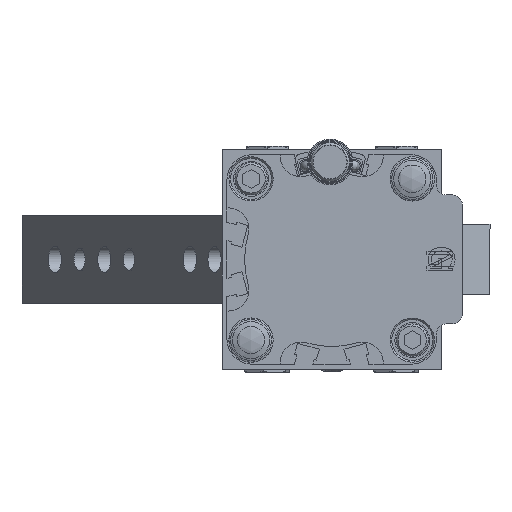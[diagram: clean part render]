
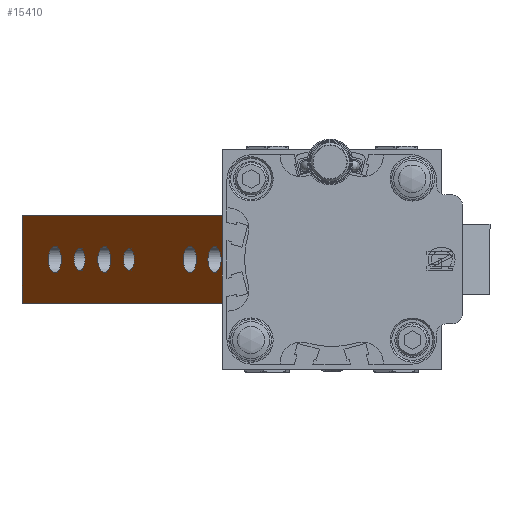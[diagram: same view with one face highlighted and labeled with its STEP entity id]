
A CAD part, left-side view. The second image highlights one B-rep face of the part: STEP entity #15410.
In plain terms, the highlighted planar face has unit normal (-0.51, 0.86, 0) as drawn and (0, 1, 0) by its records, which use the part's own axes.
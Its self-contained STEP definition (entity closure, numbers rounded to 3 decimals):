
#1286=LINE('',#25155,#2335);
#1299=LINE('',#25186,#2348);
#1304=LINE('',#25196,#2353);
#1326=LINE('',#25263,#2375);
#1328=LINE('',#25266,#2377);
#1331=LINE('',#25280,#2380);
#1339=LINE('',#25337,#2388);
#1340=LINE('',#25338,#2389);
#2335=VECTOR('',#19947,10.);
#2348=VECTOR('',#19972,10.);
#2353=VECTOR('',#19981,10.);
#2375=VECTOR('',#20041,10.);
#2377=VECTOR('',#20045,10.);
#2380=VECTOR('',#20058,10.);
#2388=VECTOR('',#20080,10.);
#2389=VECTOR('',#20081,10.);
#3123=PLANE('',#17115);
#3938=FACE_BOUND('',#5799,.T.);
#3939=FACE_BOUND('',#5800,.T.);
#3940=FACE_BOUND('',#5801,.T.);
#3941=FACE_BOUND('',#5802,.T.);
#3942=FACE_BOUND('',#5803,.T.);
#3943=FACE_BOUND('',#5804,.T.);
#4635=FACE_OUTER_BOUND('',#5798,.T.);
#5798=EDGE_LOOP('',(#12637,#12638,#12639,#12640,#12641,#12642,#12643,#12644));
#5799=EDGE_LOOP('',(#12645));
#5800=EDGE_LOOP('',(#12646));
#5801=EDGE_LOOP('',(#12647));
#5802=EDGE_LOOP('',(#12648));
#5803=EDGE_LOOP('',(#12649));
#5804=EDGE_LOOP('',(#12650));
#7082=CIRCLE('',#17116,4.);
#7083=CIRCLE('',#17117,4.);
#7084=CIRCLE('',#17118,3.324);
#7085=CIRCLE('',#17119,3.324);
#7086=CIRCLE('',#17120,4.025);
#7087=CIRCLE('',#17121,4.025);
#8164=VERTEX_POINT('',#25152);
#8165=VERTEX_POINT('',#25154);
#8176=VERTEX_POINT('',#25183);
#8177=VERTEX_POINT('',#25185);
#8179=VERTEX_POINT('',#25193);
#8180=VERTEX_POINT('',#25195);
#8205=VERTEX_POINT('',#25259);
#8218=VERTEX_POINT('',#25336);
#8219=VERTEX_POINT('',#25339);
#8220=VERTEX_POINT('',#25341);
#8221=VERTEX_POINT('',#25343);
#8222=VERTEX_POINT('',#25345);
#8223=VERTEX_POINT('',#25347);
#8224=VERTEX_POINT('',#25349);
#9842=EDGE_CURVE('',#8165,#8164,#1286,.T.);
#9857=EDGE_CURVE('',#8177,#8176,#1299,.T.);
#9862=EDGE_CURVE('',#8179,#8180,#1304,.T.);
#9896=EDGE_CURVE('',#8180,#8205,#1326,.T.);
#9898=EDGE_CURVE('',#8164,#8205,#1328,.T.);
#9905=EDGE_CURVE('',#8179,#8177,#1331,.T.);
#9917=EDGE_CURVE('',#8218,#8176,#1339,.T.);
#9918=EDGE_CURVE('',#8218,#8165,#1340,.T.);
#9919=EDGE_CURVE('',#8219,#8219,#7082,.T.);
#9920=EDGE_CURVE('',#8220,#8220,#7083,.T.);
#9921=EDGE_CURVE('',#8221,#8221,#7084,.T.);
#9922=EDGE_CURVE('',#8222,#8222,#7085,.T.);
#9923=EDGE_CURVE('',#8223,#8223,#7086,.T.);
#9924=EDGE_CURVE('',#8224,#8224,#7087,.T.);
#12637=ORIENTED_EDGE('',*,*,#9842,.T.);
#12638=ORIENTED_EDGE('',*,*,#9898,.T.);
#12639=ORIENTED_EDGE('',*,*,#9896,.F.);
#12640=ORIENTED_EDGE('',*,*,#9862,.F.);
#12641=ORIENTED_EDGE('',*,*,#9905,.T.);
#12642=ORIENTED_EDGE('',*,*,#9857,.T.);
#12643=ORIENTED_EDGE('',*,*,#9917,.F.);
#12644=ORIENTED_EDGE('',*,*,#9918,.T.);
#12645=ORIENTED_EDGE('',*,*,#9919,.T.);
#12646=ORIENTED_EDGE('',*,*,#9920,.T.);
#12647=ORIENTED_EDGE('',*,*,#9921,.T.);
#12648=ORIENTED_EDGE('',*,*,#9922,.T.);
#12649=ORIENTED_EDGE('',*,*,#9923,.T.);
#12650=ORIENTED_EDGE('',*,*,#9924,.T.);
#15410=ADVANCED_FACE('',(#4635,#3938,#3939,#3940,#3941,#3942,#3943),#3123,
 .T.);
#17115=AXIS2_PLACEMENT_3D('',#25335,#20078,#20079);
#17116=AXIS2_PLACEMENT_3D('',#25340,#20082,#20083);
#17117=AXIS2_PLACEMENT_3D('',#25342,#20084,#20085);
#17118=AXIS2_PLACEMENT_3D('',#25344,#20086,#20087);
#17119=AXIS2_PLACEMENT_3D('',#25346,#20088,#20089);
#17120=AXIS2_PLACEMENT_3D('',#25348,#20090,#20091);
#17121=AXIS2_PLACEMENT_3D('',#25350,#20092,#20093);
#19947=DIRECTION('',(0.,0.,1.));
#19972=DIRECTION('',(1.,0.,0.));
#19981=DIRECTION('',(-1.,0.,0.));
#20041=DIRECTION('',(0.,0.,-1.));
#20045=DIRECTION('',(-1.,0.,0.));
#20058=DIRECTION('',(0.,0.,1.));
#20078=DIRECTION('center_axis',(0.,1.,0.));
#20079=DIRECTION('ref_axis',(0.,0.,1.));
#20080=DIRECTION('',(0.,0.,1.));
#20081=DIRECTION('',(-1.,0.,0.));
#20082=DIRECTION('center_axis',(0.,-1.,0.));
#20083=DIRECTION('ref_axis',(1.,0.,0.));
#20084=DIRECTION('center_axis',(0.,-1.,0.));
#20085=DIRECTION('ref_axis',(1.,0.,0.));
#20086=DIRECTION('center_axis',(0.,-1.,0.));
#20087=DIRECTION('ref_axis',(1.,0.,0.));
#20088=DIRECTION('center_axis',(0.,-1.,0.));
#20089=DIRECTION('ref_axis',(1.,0.,0.));
#20090=DIRECTION('center_axis',(0.,-1.,0.));
#20091=DIRECTION('ref_axis',(1.,0.,0.));
#20092=DIRECTION('center_axis',(0.,-1.,0.));
#20093=DIRECTION('ref_axis',(1.,0.,0.));
#25152=CARTESIAN_POINT('',(26.5,75.,2.5));
#25154=CARTESIAN_POINT('',(26.5,75.,0.));
#25155=CARTESIAN_POINT('',(26.5,75.,0.625));
#25183=CARTESIAN_POINT('',(155.,75.,27.));
#25185=CARTESIAN_POINT('',(26.5,75.,27.));
#25186=CARTESIAN_POINT('',(155.,75.,27.));
#25193=CARTESIAN_POINT('',(26.5,75.,24.5));
#25195=CARTESIAN_POINT('',(-3.,75.,24.5));
#25196=CARTESIAN_POINT('',(0.,75.,24.5));
#25259=CARTESIAN_POINT('',(-3.,75.,2.5));
#25263=CARTESIAN_POINT('',(-3.,75.,24.5));
#25266=CARTESIAN_POINT('',(0.,75.,2.5));
#25280=CARTESIAN_POINT('',(26.5,75.,12.875));
#25335=CARTESIAN_POINT('Origin',(0.,75.,0.));
#25336=CARTESIAN_POINT('',(155.,75.,0.));
#25337=CARTESIAN_POINT('',(155.,75.,0.));
#25338=CARTESIAN_POINT('',(155.,75.,0.));
#25339=CARTESIAN_POINT('',(139.,75.,13.5));
#25340=CARTESIAN_POINT('Origin',(135.,75.,13.5));
#25341=CARTESIAN_POINT('',(109.,75.,13.5));
#25342=CARTESIAN_POINT('Origin',(105.,75.,13.5));
#25343=CARTESIAN_POINT('',(123.324,75.,13.5));
#25344=CARTESIAN_POINT('Origin',(120.,75.,13.5));
#25345=CARTESIAN_POINT('',(93.324,75.,13.5));
#25346=CARTESIAN_POINT('Origin',(90.,75.,13.5));
#25347=CARTESIAN_POINT('',(42.025,75.,13.5));
#25348=CARTESIAN_POINT('Origin',(38.,75.,13.5));
#25349=CARTESIAN_POINT('',(57.025,75.,13.5));
#25350=CARTESIAN_POINT('Origin',(53.,75.,13.5));
